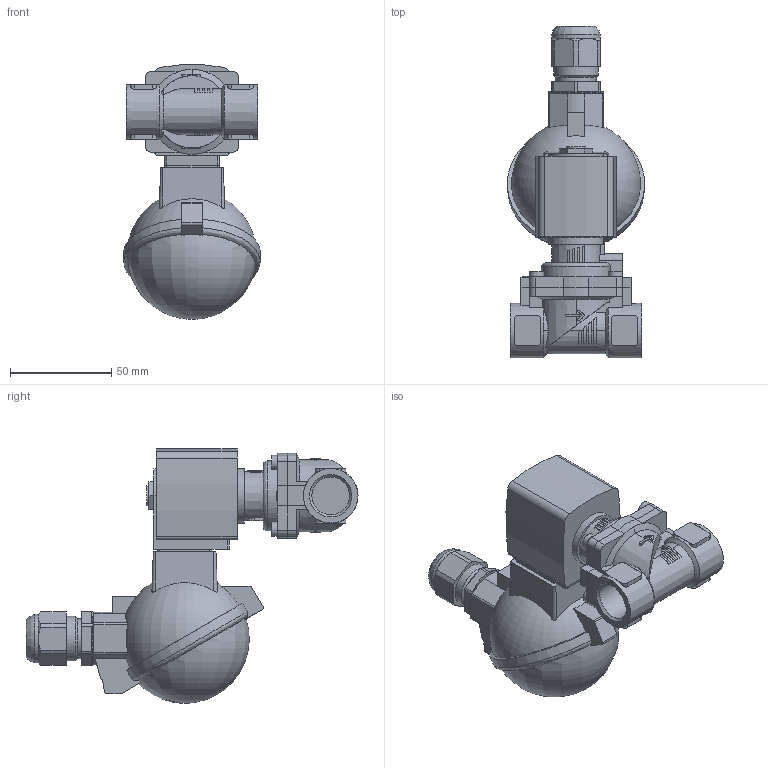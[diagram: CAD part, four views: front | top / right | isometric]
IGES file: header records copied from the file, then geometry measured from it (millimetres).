
Start section: Data from Parasolid IGES Translator 26.0.171, Copyright(c) 2006 Siemens PLM Software. All Rights Reserved.
Global section: file name: 6281-386976-2_2-Way_Solenoid_Valve__Servo-assisted__General_Purpose.igs; native system: By Siemens PLM Incorporated; preprocessor: XPlus GENERIC/IGES 26.0.171; author: Noname; organization: Noname; date: 20240816.215028; units: inch
Bounding box: 67.86 x 164.3 x 126.03 mm (x, y, z)
Surface area: 53449.7 mm2 (no closed solid volume)
Topology: 0 solids, 0 shells, 415 faces, 2215 edges, 2193 vertices
Faces by surface type: extrusion 241, revolution 174
